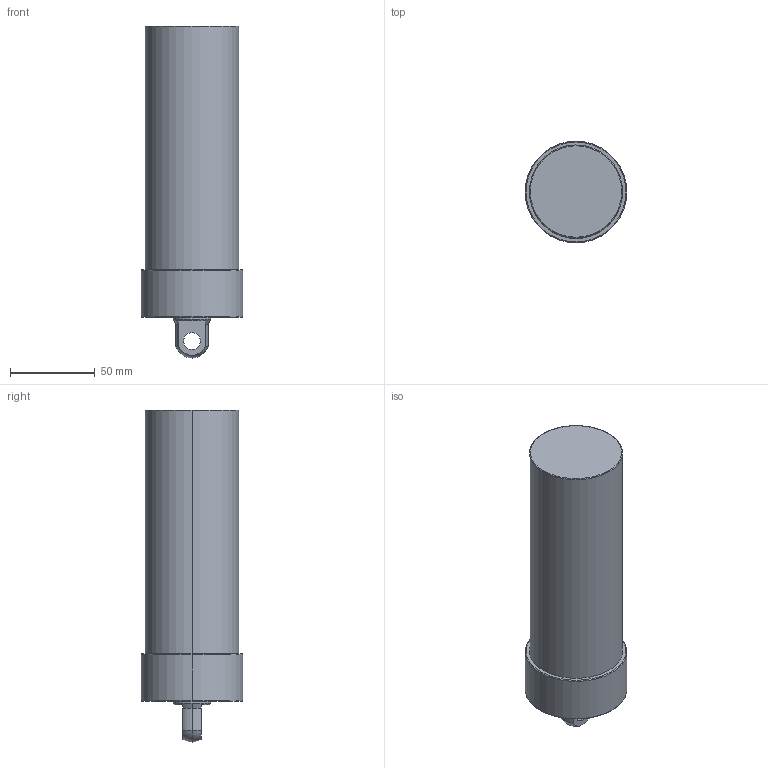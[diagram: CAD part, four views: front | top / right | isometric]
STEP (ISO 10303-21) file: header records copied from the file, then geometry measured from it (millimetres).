
FILE_DESCRIPTION (( 'STEP AP203' ), '1' );
FILE_NAME ('CLLU-055GP-115.STEP', '2020-01-06T07:44:13', ( '' ), ( '' ), 'SwSTEP 2.0', 'SolidWorks 2015', '' );
FILE_SCHEMA (( 'CONFIG_CONTROL_DESIGN' ));
Length unit declared in the file: millimetre
Products named in the file (1): CLLU-055GP-115
Bounding box: 60 x 60 x 196 mm (x, y, z)
Volume: 423516.8 mm3; surface area: 38135.1 mm2
Topology: 1 solids, 1 shells, 58 faces, 131 edges, 75 vertices
Faces by surface type: cylinder 23, cone 18, plane 9, torus 6, sphere 2
Entity records: 1658 total; most frequent: DIRECTION 311, CARTESIAN_POINT 269, ORIENTED_EDGE 246, AXIS2_PLACEMENT_3D 133, EDGE_CURVE 123, VERTEX_POINT 75, CIRCLE 74, EDGE_LOOP 68
